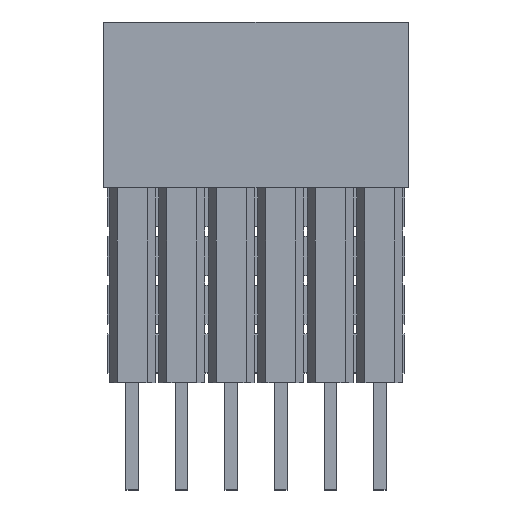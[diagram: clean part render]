
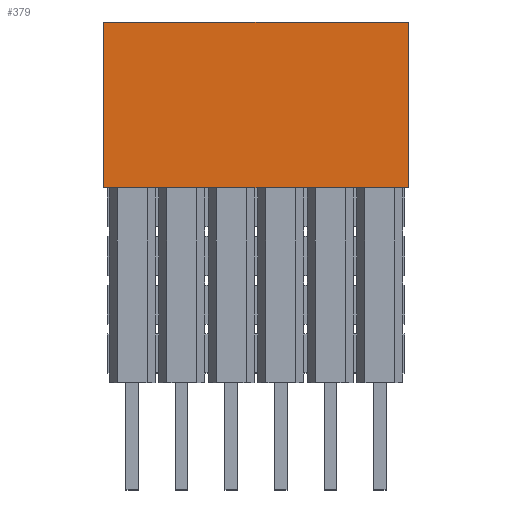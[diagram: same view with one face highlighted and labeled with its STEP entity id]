
A CAD part, top view. The second image highlights one B-rep face of the part: STEP entity #379.
In plain terms, the highlighted planar face has unit normal (0, 0, 1).
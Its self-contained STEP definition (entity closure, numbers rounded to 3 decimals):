
#379=ADVANCED_FACE('',(#1087),#737,.T.);
#737=PLANE('',#7910);
#1087=FACE_OUTER_BOUND('',#1491,.T.);
#1491=EDGE_LOOP('',(#3235,#3236,#3237,#3238));
#3235=ORIENTED_EDGE('',*,*,#5226,.F.);
#3236=ORIENTED_EDGE('',*,*,#5227,.T.);
#3237=ORIENTED_EDGE('',*,*,#5223,.T.);
#3238=ORIENTED_EDGE('',*,*,#5228,.T.);
#4247=VERTEX_POINT('',#11379);
#4248=VERTEX_POINT('',#11380);
#4249=VERTEX_POINT('',#11385);
#4250=VERTEX_POINT('',#11386);
#5223=EDGE_CURVE('',#4247,#4248,#6303,.T.);
#5226=EDGE_CURVE('',#4249,#4250,#6306,.T.);
#5227=EDGE_CURVE('',#4249,#4247,#6307,.T.);
#5228=EDGE_CURVE('',#4248,#4250,#6308,.T.);
#6303=LINE('',#11378,#7383);
#6306=LINE('',#11384,#7386);
#6307=LINE('',#11387,#7387);
#6308=LINE('',#11388,#7388);
#7383=VECTOR('',#9354,1.);
#7386=VECTOR('',#9359,1.);
#7387=VECTOR('',#9360,1.);
#7388=VECTOR('',#9361,1.);
#7910=AXIS2_PLACEMENT_3D('',#11389,#9362,#9363);
#9354=DIRECTION('',(1.,0.,0.));
#9359=DIRECTION('',(1.,0.,0.));
#9360=DIRECTION('',(0.,-1.,0.));
#9361=DIRECTION('',(0.,1.,0.));
#9362=DIRECTION('',(0.,0.,1.));
#9363=DIRECTION('',(-1.,0.,0.));
#11378=CARTESIAN_POINT('',(-38.1,0.,0.02));
#11379=CARTESIAN_POINT('',(-20.32,0.,0.02));
#11380=CARTESIAN_POINT('',(-4.68,0.,0.02));
#11384=CARTESIAN_POINT('',(-38.1,8.5,0.02));
#11385=CARTESIAN_POINT('',(-20.32,8.5,0.02));
#11386=CARTESIAN_POINT('',(-4.68,8.5,0.02));
#11387=CARTESIAN_POINT('',(-20.32,0.,0.02));
#11388=CARTESIAN_POINT('',(-4.68,0.,0.02));
#11389=CARTESIAN_POINT('',(-38.1,0.,0.02));
